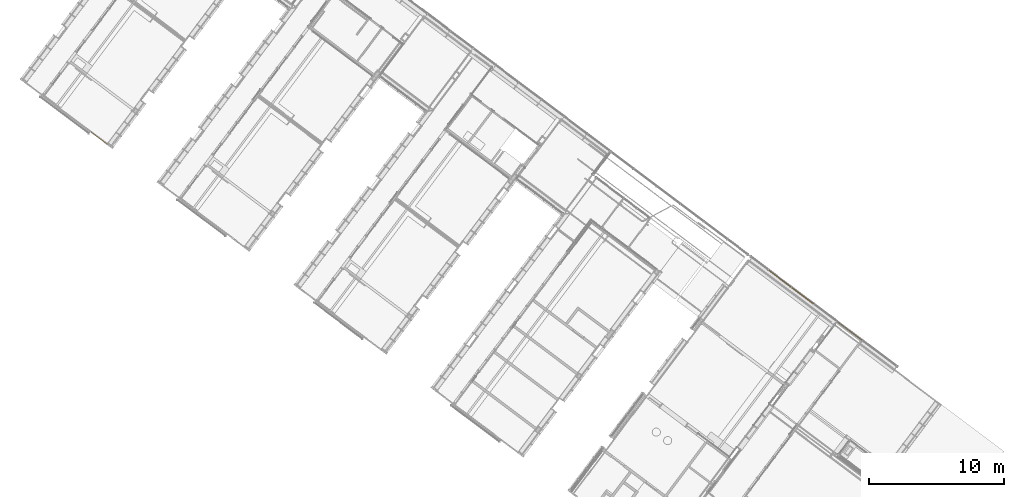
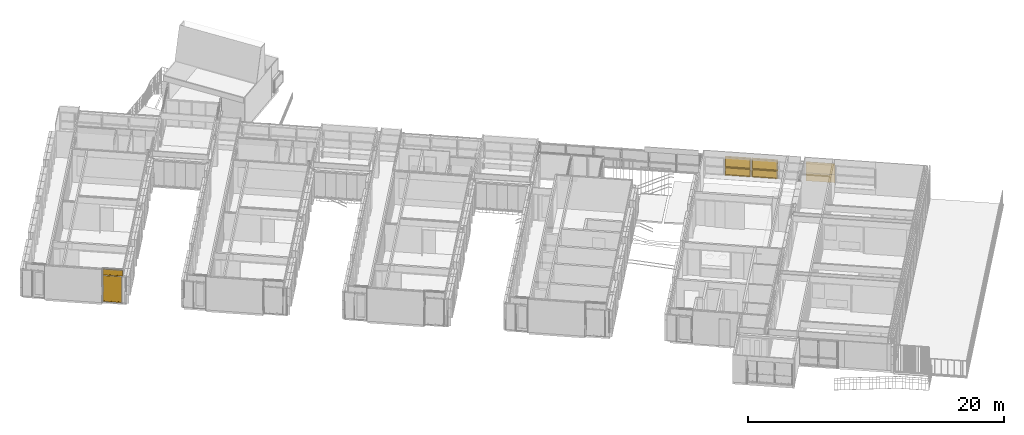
# One storey, part 172 of 243: 8 windows, 2 elements without a shape of their own.
"""IFC2X3 building model written with IfcOpenShell, lengths in metres."""

from ifc_helpers import new_model, entity, si_unit, converted_unit, derived_unit, direction, frame, origin, origin_2d_with_axis, place, context, subcontext, project, spatial, polyline, rectangle, outline, extrude, faceted_brep, source, transform, mapped, material, material_list, type_object, type_shapes, element, aggregate, save


model = new_model("IFC2X3")

# Units and contexts
model_context = context("Model", 3, precision=1e-05, world=origin(), true_north=direction((6.123031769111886e-17, 1.0)))
body_context = subcontext(model_context, "Body", "Model", "MODEL_VIEW")
ifc_project = project(units=[si_unit("LENGTHUNIT", "METRE"), si_unit("AREAUNIT", "SQUARE_METRE"), si_unit("VOLUMEUNIT", "CUBIC_METRE"), converted_unit("PLANEANGLEUNIT", "DEGREE", entity("IfcRatioMeasure", 0.017453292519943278), si_unit("PLANEANGLEUNIT", "RADIAN"), dimensions=[0, 0, 0, 0, 0, 0, 0]), si_unit("MASSUNIT", "GRAM", prefix="KILO"), derived_unit("MASSDENSITYUNIT", [(si_unit("MASSUNIT", "GRAM", prefix="KILO"), 1), (si_unit("LENGTHUNIT", "METRE"), -3)]), derived_unit("IONCONCENTRATIONUNIT", [(si_unit("MASSUNIT", "GRAM", prefix="KILO"), 1), (si_unit("LENGTHUNIT", "METRE"), -3)]), derived_unit("MOMENTOFINERTIAUNIT", [(si_unit("LENGTHUNIT", "METRE"), 4)]), si_unit("TIMEUNIT", "SECOND"), si_unit("FREQUENCYUNIT", "HERTZ"), si_unit("THERMODYNAMICTEMPERATUREUNIT", "DEGREE_CELSIUS"), derived_unit("THERMALTRANSMITTANCEUNIT", [(si_unit("MASSUNIT", "GRAM", prefix="KILO"), 1), (si_unit("THERMODYNAMICTEMPERATUREUNIT", "KELVIN"), -1), (si_unit("TIMEUNIT", "SECOND"), -3)]), derived_unit("THERMALCONDUCTANCEUNIT", [(si_unit("MASSUNIT", "GRAM", prefix="KILO"), 1), (si_unit("THERMODYNAMICTEMPERATUREUNIT", "KELVIN"), -1), (si_unit("TIMEUNIT", "SECOND"), -3), (si_unit("LENGTHUNIT", "METRE"), 1)]), derived_unit("VOLUMETRICFLOWRATEUNIT", [(si_unit("LENGTHUNIT", "METRE"), 3), (si_unit("TIMEUNIT", "SECOND"), -1)]), derived_unit("MASSFLOWRATEUNIT", [(si_unit("MASSUNIT", "GRAM", prefix="KILO"), 1), (si_unit("TIMEUNIT", "SECOND"), -1)]), derived_unit("ROTATIONALFREQUENCYUNIT", [(si_unit("TIMEUNIT", "SECOND"), -1)]), si_unit("ELECTRICCURRENTUNIT", "AMPERE"), si_unit("ELECTRICVOLTAGEUNIT", "VOLT"), si_unit("POWERUNIT", "WATT"), si_unit("FORCEUNIT", "NEWTON", prefix="KILO"), si_unit("ILLUMINANCEUNIT", "LUX"), si_unit("LUMINOUSFLUXUNIT", "LUMEN"), si_unit("LUMINOUSINTENSITYUNIT", "CANDELA"), derived_unit("USERDEFINED", [(si_unit("MASSUNIT", "GRAM", prefix="KILO"), -1), (si_unit("LENGTHUNIT", "METRE"), -2), (si_unit("TIMEUNIT", "SECOND"), 3), (si_unit("LUMINOUSFLUXUNIT", "LUMEN"), 1)]), derived_unit("USERDEFINED", [(si_unit("MASSUNIT", "GRAM", prefix="KILO"), 1), (si_unit("TIMEUNIT", "SECOND"), -3), (si_unit("LENGTHUNIT", "METRE"), 3), (si_unit("ELECTRICCURRENTUNIT", "AMPERE"), -2)]), derived_unit("SOUNDPOWERUNIT", [(si_unit("MASSUNIT", "GRAM", prefix="KILO"), 1), (si_unit("TIMEUNIT", "SECOND"), -3), (si_unit("LENGTHUNIT", "METRE"), 2)]), derived_unit("SOUNDPRESSUREUNIT", [(si_unit("MASSUNIT", "GRAM", prefix="KILO"), 1), (si_unit("LENGTHUNIT", "METRE"), -1), (si_unit("TIMEUNIT", "SECOND"), -2)]), derived_unit("LINEARVELOCITYUNIT", [(si_unit("LENGTHUNIT", "METRE"), 1), (si_unit("TIMEUNIT", "SECOND"), -1)]), si_unit("PRESSUREUNIT", "PASCAL"), derived_unit("USERDEFINED", [(si_unit("MASSUNIT", "GRAM", prefix="KILO"), 1), (si_unit("LENGTHUNIT", "METRE"), -2), (si_unit("TIMEUNIT", "SECOND"), -2)]), derived_unit("LINEARFORCEUNIT", [(si_unit("MASSUNIT", "GRAM", prefix="KILO"), 1), (si_unit("TIMEUNIT", "SECOND"), -2)]), derived_unit("PLANARFORCEUNIT", [(si_unit("MASSUNIT", "GRAM", prefix="KILO"), 1), (si_unit("LENGTHUNIT", "METRE"), -1), (si_unit("TIMEUNIT", "SECOND"), -2)]), derived_unit("SPECIFICHEATCAPACITYUNIT", [(si_unit("THERMODYNAMICTEMPERATUREUNIT", "KELVIN"), -1), (si_unit("LENGTHUNIT", "METRE"), 2), (si_unit("TIMEUNIT", "SECOND"), -2)]), derived_unit("HEATINGVALUEUNIT", [(si_unit("LENGTHUNIT", "METRE"), 2), (si_unit("TIMEUNIT", "SECOND"), -2)]), derived_unit("VAPORPERMEABILITYUNIT", [(si_unit("LENGTHUNIT", "METRE"), -1), (si_unit("TIMEUNIT", "SECOND"), 1)]), derived_unit("DYNAMICVISCOSITYUNIT", [(si_unit("MASSUNIT", "GRAM", prefix="KILO"), 1), (si_unit("TIMEUNIT", "SECOND"), -1), (si_unit("LENGTHUNIT", "METRE"), -1)]), derived_unit("THERMALEXPANSIONCOEFFICIENTUNIT", [(si_unit("THERMODYNAMICTEMPERATUREUNIT", "KELVIN"), -1)]), derived_unit("MODULUSOFELASTICITYUNIT", [(si_unit("MASSUNIT", "GRAM", prefix="KILO"), 1), (si_unit("LENGTHUNIT", "METRE"), -1), (si_unit("TIMEUNIT", "SECOND"), -2)]), derived_unit("ISOTHERMALMOISTURECAPACITYUNIT", [(si_unit("LENGTHUNIT", "METRE"), 3), (si_unit("MASSUNIT", "GRAM", prefix="KILO"), -1)]), derived_unit("MOISTUREDIFFUSIVITYUNIT", [(si_unit("TIMEUNIT", "SECOND"), -1), (si_unit("LENGTHUNIT", "METRE"), 2)])], contexts=[model_context])

# Site, building, storey
site_placement = place(None, frame((0.0, 0.0, 235.0), z_axis=(0.0, 0.0, 1.0), x_axis=(-0.7996477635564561, 0.6004693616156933, 0.0)))
site = spatial("IfcSite", under=ifc_project, at=site_placement, Name="Default", CompositionType="ELEMENT")
building_placement = place(site_placement, origin())
building = spatial("IfcBuilding", under=site, at=building_placement, CompositionType="ELEMENT")
storey_placement = place(building_placement, origin())
storey = spatial("IfcBuildingStorey", under=building, at=storey_placement, Name="P0- Escola", CompositionType="ELEMENT", Elevation=0.0)

# Curtain wall, windows
curtain_wall_type_1 = type_object("IfcCurtainWallType", Name="Muro cortina:MC- EXT- AL1- Fa porxo", PredefinedType="NOTDEFINED")
curtain_wall_1_placement = place(storey_placement, origin())
curtain_wall_1 = element("IfcCurtainWall", 1, at=curtain_wall_1_placement, inside=storey, type_object=curtain_wall_type_1, Name="Muro cortina:MC- EXT- AL1- Fa porxo", ObjectType="Muro cortina:MC- EXT- AL1- Fa porxo")
ifc_material_1 = material(Name="_Vidre")
ifc_material_2 = material(Name="_Alumini- T1- Perfil")
ifc_material_list_1 = material_list([ifc_material_1, ifc_material_2])
window_style_1 = type_object("IfcWindowStyle", Name="MC- Alu- Conjunt vidre fix- 62x60 cm:MC- Alu- Conjunt vidre fix- 62x60 cm", ConstructionType="NOTDEFINED", OperationType="NOTDEFINED", ParameterTakesPrecedence=False, Sizeable=False, material=ifc_material_list_1)
shared_shape_1 = source(origin(), body_context, "Body", "Brep", [
    faceted_brep([(-0.698191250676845, -0.007600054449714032, 0.048806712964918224), (0.6981912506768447, -0.007600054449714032, 0.048806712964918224), (0.6981912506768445, -0.03160022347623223, 0.048806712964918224), (-0.6981912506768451, -0.03160022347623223, 0.048806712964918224), (-0.6981912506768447, -0.007600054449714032, 2.4222499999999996), (0.6981912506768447, -0.007600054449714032, 2.4222499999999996), (0.6981912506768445, -0.03160022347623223, 2.4222499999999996), (-0.6981912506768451, -0.03160022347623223, 2.4222499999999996)], [[[0, 1, 2, 3]], [[4, 5, 1, 0]], [[5, 6, 2, 1]], [[6, 7, 3, 2]], [[7, 4, 0, 3]], [[4, 7, 6, 5]]]),
    faceted_brep([(-0.746997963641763, -0.05999999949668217, 2.4712499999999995), (-0.746997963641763, 0.0, 2.4712499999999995), (-0.746997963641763, 0.0, 0.0), (-0.746997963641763, -0.05999999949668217, 0.0), (-0.6841911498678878, 0.0, 2.4084431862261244), (-0.6841911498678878, 0.0, 0.06280681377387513), (0.6841911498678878, 0.0, 0.06280681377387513), (0.6841911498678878, 0.0, 2.4084431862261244), (0.746997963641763, 0.0, 2.4712499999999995), (0.746997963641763, 0.0, 0.0), (0.746997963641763, -0.05999999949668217, 0.0), (0.746997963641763, -0.05999999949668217, 2.4712499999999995), (0.684193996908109, -0.05999999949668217, 2.4084460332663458), (0.6841939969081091, -0.05999999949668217, 0.06280396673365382), (-0.684193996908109, -0.05999999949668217, 0.06280396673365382), (-0.6841939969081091, -0.05999999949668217, 2.4084460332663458), (-0.6841939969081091, -0.03160022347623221, 2.4084460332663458), (-0.6841939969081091, -0.03160022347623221, 0.06280396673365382), (0.6841939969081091, -0.03160022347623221, 0.06280396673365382), (0.6841939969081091, -0.03160022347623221, 2.4084460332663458), (0.6981912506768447, -0.03160022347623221, 2.4224432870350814), (0.6981912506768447, -0.03160022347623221, 0.048806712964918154), (-0.6981912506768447, -0.03160022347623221, 0.04880671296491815), (-0.6981912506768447, -0.03160022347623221, 2.4224432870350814), (-0.6981912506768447, -0.007600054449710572, 2.4224432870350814), (-0.6981912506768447, -0.007600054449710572, 0.04880671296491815), (0.6981912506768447, -0.007600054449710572, 0.048806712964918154), (0.6981912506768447, -0.007600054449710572, 2.4224432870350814), (0.6841911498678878, -0.007600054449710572, 2.4084431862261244), (0.6841911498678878, -0.007600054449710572, 0.06280681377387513), (-0.6841911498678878, -0.007600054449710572, 0.06280681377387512), (-0.6841911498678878, -0.007600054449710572, 2.4084431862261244)], [[[0, 1, 2, 3]], [[4, 5, 6, 7], [8, 9, 2, 1]], [[3, 2, 9, 10]], [[0, 3, 10, 11], [12, 13, 14, 15]], [[16, 15, 14, 17]], [[17, 14, 13, 18]], [[16, 17, 18, 19], [20, 21, 22, 23]], [[24, 23, 22, 25]], [[25, 22, 21, 26]], [[24, 25, 26, 27], [28, 29, 30, 31]], [[4, 31, 30, 5]], [[5, 30, 29, 6]], [[10, 9, 8, 11]], [[18, 13, 12, 19]], [[26, 21, 20, 27]], [[6, 29, 28, 7]], [[11, 8, 1, 0]], [[19, 12, 15, 16]], [[27, 20, 23, 24]], [[7, 28, 31, 4]]], outer=[[True], [False, True], [True], [True, False], [True], [True], [False, True], [True], [True], [True, False], [True], [True], [True], [True], [True], [True], [True], [True], [True], [True]]),
])
type_shapes(window_style_1, [shared_shape_1])
window_1_placement = place(curtain_wall_1_placement, frame((67.58714564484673, -20.288941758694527, 0.02099999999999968)))
window_1 = element("IfcWindow", 2, at=window_1_placement, type_object=window_style_1, material=ifc_material_list_1, Name="MC- Alu- Conjunt vidre fix- 62x60 cm:MC- Alu- Conjunt vidre fix- 62x60 cm", ObjectType="MC- Alu- Conjunt vidre fix- 62x60 cm:MC- Alu- Conjunt vidre fix- 62x60 cm", OverallHeight=2.4712499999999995, OverallWidth=1.493995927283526, context=body_context, shape_type="MappedRepresentation", body=[
    mapped(shared_shape_1, transform((0.0, 0.0, 0.0), scale=1.0)),
])
window_style_2 = type_object("IfcWindowStyle", Name="MC- Alu- Conjunt vidre fix- 62x60 cm:MC- Alu- Conjunt vidre fix- 62x60 cm", ConstructionType="NOTDEFINED", OperationType="NOTDEFINED", ParameterTakesPrecedence=False, Sizeable=False, material=ifc_material_list_1)
shared_shape_2 = source(origin(), body_context, "Body", "Brep", [
    faceted_brep([(-0.7221079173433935, -0.007600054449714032, 0.048806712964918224), (0.7221079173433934, -0.007600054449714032, 0.048806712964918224), (0.7221079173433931, -0.03160022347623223, 0.048806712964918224), (-0.7221079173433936, -0.03160022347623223, 0.048806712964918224), (-0.7221079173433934, -0.007600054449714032, 0.5147500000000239), (0.7221079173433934, -0.007600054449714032, 0.5147500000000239), (0.7221079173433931, -0.03160022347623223, 0.5147500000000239), (-0.7221079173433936, -0.03160022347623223, 0.5147500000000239)], [[[0, 1, 2, 3]], [[4, 5, 1, 0]], [[5, 6, 2, 1]], [[6, 7, 3, 2]], [[7, 4, 0, 3]], [[4, 7, 6, 5]]]),
    faceted_brep([(-0.7709146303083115, -0.05999999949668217, 0.563750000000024), (-0.7709146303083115, 0.0, 0.563750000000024), (-0.7709146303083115, 0.0, 0.0), (-0.7709146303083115, -0.05999999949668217, 0.0), (-0.7081078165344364, 0.0, 0.5009431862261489), (-0.7081078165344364, 0.0, 0.06280681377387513), (0.7081078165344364, 0.0, 0.06280681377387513), (0.7081078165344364, 0.0, 0.5009431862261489), (0.7709146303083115, 0.0, 0.563750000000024), (0.7709146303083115, 0.0, 0.0), (0.7709146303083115, -0.05999999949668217, 0.0), (0.7709146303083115, -0.05999999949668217, 0.563750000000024), (0.7081106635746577, -0.05999999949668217, 0.5009460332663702), (0.7081106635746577, -0.05999999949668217, 0.06280396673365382), (-0.7081106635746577, -0.05999999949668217, 0.06280396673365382), (-0.7081106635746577, -0.05999999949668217, 0.5009460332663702), (-0.7081106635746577, -0.03160022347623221, 0.5009460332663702), (-0.7081106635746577, -0.03160022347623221, 0.06280396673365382), (0.7081106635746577, -0.03160022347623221, 0.06280396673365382), (0.7081106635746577, -0.03160022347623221, 0.5009460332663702), (0.7221079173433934, -0.03160022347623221, 0.5149432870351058), (0.7221079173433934, -0.03160022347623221, 0.048806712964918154), (-0.7221079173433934, -0.03160022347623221, 0.04880671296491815), (-0.7221079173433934, -0.03160022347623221, 0.5149432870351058), (-0.7221079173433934, -0.007600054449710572, 0.5149432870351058), (-0.7221079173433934, -0.007600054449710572, 0.04880671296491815), (0.7221079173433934, -0.007600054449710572, 0.048806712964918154), (0.7221079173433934, -0.007600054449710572, 0.5149432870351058), (0.7081078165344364, -0.007600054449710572, 0.5009431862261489), (0.7081078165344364, -0.007600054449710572, 0.06280681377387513), (-0.7081078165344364, -0.007600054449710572, 0.06280681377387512), (-0.7081078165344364, -0.007600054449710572, 0.5009431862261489)], [[[0, 1, 2, 3]], [[4, 5, 6, 7], [8, 9, 2, 1]], [[3, 2, 9, 10]], [[0, 3, 10, 11], [12, 13, 14, 15]], [[16, 15, 14, 17]], [[17, 14, 13, 18]], [[16, 17, 18, 19], [20, 21, 22, 23]], [[24, 23, 22, 25]], [[25, 22, 21, 26]], [[24, 25, 26, 27], [28, 29, 30, 31]], [[4, 31, 30, 5]], [[5, 30, 29, 6]], [[10, 9, 8, 11]], [[18, 13, 12, 19]], [[26, 21, 20, 27]], [[6, 29, 28, 7]], [[11, 8, 1, 0]], [[19, 12, 15, 16]], [[27, 20, 23, 24]], [[7, 28, 31, 4]]], outer=[[True], [False, True], [True], [True, False], [True], [True], [False, True], [True], [True], [True, False], [True], [True], [True], [True], [True], [True], [True], [True], [True], [True]]),
])
type_shapes(window_style_2, [shared_shape_2])
window_2_placement = place(curtain_wall_1_placement, frame((67.56322897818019, -20.288941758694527, 2.54525)))
window_2 = element("IfcWindow", 3, at=window_2_placement, type_object=window_style_2, material=ifc_material_list_1, Name="MC- Alu- Conjunt vidre fix- 62x60 cm:MC- Alu- Conjunt vidre fix- 62x60 cm", ObjectType="MC- Alu- Conjunt vidre fix- 62x60 cm:MC- Alu- Conjunt vidre fix- 62x60 cm", OverallHeight=0.563750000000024, OverallWidth=1.541829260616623, context=body_context, shape_type="MappedRepresentation", body=[
    mapped(shared_shape_2, transform((0.0, 0.0, 0.0), scale=1.0)),
])
aggregate(curtain_wall_1, [window_1, window_2])

curtain_wall_type_2 = type_object("IfcCurtainWallType", Name="Muro cortina:MC- EXT- MC6", PredefinedType="NOTDEFINED")
curtain_wall_2_placement = place(storey_placement, origin())
curtain_wall_2 = element("IfcCurtainWall", 4, at=curtain_wall_2_placement, inside=storey, type_object=curtain_wall_type_2, Name="Muro cortina:MC- EXT- MC6", ObjectType="Muro cortina:MC- EXT- MC6")
window_style_3 = type_object("IfcWindowStyle", Name="MC- Alu- Conjunt vidre fix- 62x60 cm:MC- Alu- Conjunt vidre fix- 62x60 cm", ConstructionType="NOTDEFINED", OperationType="NOTDEFINED", ParameterTakesPrecedence=False, Sizeable=False, material=ifc_material_list_1)
shared_shape_3 = source(origin(), body_context, "Body", "Brep", [
    faceted_brep([(0.984693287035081, -0.007600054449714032, 0.048806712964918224), (0.9846932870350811, -0.03160022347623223, 0.048806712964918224), (-0.9846932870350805, -0.03160022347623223, 0.048806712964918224), (-0.9846932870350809, -0.007600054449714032, 0.048806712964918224), (0.984693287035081, -0.007600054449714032, 0.7210000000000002), (-0.9846932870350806, -0.007600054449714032, 0.7210000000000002), (-0.9846932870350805, -0.03160022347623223, 0.7210000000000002), (0.9846932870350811, -0.03160022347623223, 0.7210000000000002)], [[[0, 1, 2, 3]], [[4, 0, 3, 5]], [[5, 3, 2, 6]], [[6, 2, 1, 7]], [[7, 1, 0, 4]], [[4, 5, 6, 7]]]),
    faceted_brep([(1.033499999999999, -0.05999999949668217, 0.7700000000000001), (1.033499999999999, -0.05999999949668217, 0.0), (1.033499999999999, 0.0, 0.0), (1.033499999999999, 0.0, 0.7699999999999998), (-1.033499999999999, 0.0, 0.7700000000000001), (-1.033499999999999, 0.0, 0.0), (0.9706931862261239, 0.0, 0.7071931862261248), (-0.9706931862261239, 0.0, 0.707193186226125), (-0.9706931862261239, 0.0, 0.0628068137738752), (0.9706931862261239, 0.0, 0.06280681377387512), (-1.033499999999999, -0.05999999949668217, 0.0), (-1.033499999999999, -0.05999999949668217, 0.7700000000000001), (-0.9706960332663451, -0.05999999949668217, 0.7071960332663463), (0.9706960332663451, -0.05999999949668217, 0.7071960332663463), (0.9706960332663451, -0.05999999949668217, 0.06280396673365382), (-0.9706960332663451, -0.05999999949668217, 0.06280396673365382), (0.9706960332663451, -0.03160022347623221, 0.7071960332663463), (0.9706960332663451, -0.03160022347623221, 0.06280396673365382), (-0.9706960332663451, -0.03160022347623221, 0.06280396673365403), (-0.9706960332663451, -0.03160022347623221, 0.7071960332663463), (-0.9846932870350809, -0.03160022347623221, 0.721193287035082), (0.9846932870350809, -0.03160022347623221, 0.721193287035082), (0.9846932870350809, -0.03160022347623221, 0.048806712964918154), (-0.9846932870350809, -0.03160022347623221, 0.04880671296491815), (0.9846932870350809, -0.007600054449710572, 0.721193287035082), (0.9846932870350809, -0.007600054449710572, 0.04880671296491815), (-0.9846932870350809, -0.007600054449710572, 0.048806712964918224), (-0.9846932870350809, -0.007600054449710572, 0.721193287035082), (-0.9706931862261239, -0.007600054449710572, 0.707193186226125), (0.9706931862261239, -0.007600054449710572, 0.707193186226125), (0.9706931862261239, -0.007600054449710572, 0.06280681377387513), (-0.9706931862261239, -0.007600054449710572, 0.06280681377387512)], [[[0, 1, 2, 3]], [[4, 3, 2, 5], [6, 7, 8, 9]], [[1, 10, 5, 2]], [[0, 11, 10, 1], [12, 13, 14, 15]], [[16, 17, 14, 13]], [[17, 18, 15, 14]], [[16, 19, 18, 17], [20, 21, 22, 23]], [[24, 25, 22, 21]], [[25, 26, 23, 22]], [[24, 27, 26, 25], [28, 29, 30, 31]], [[6, 9, 30, 29]], [[9, 8, 31, 30]], [[10, 11, 4, 5]], [[18, 19, 12, 15]], [[26, 27, 20, 23]], [[8, 7, 28, 31]], [[11, 0, 3, 4]], [[19, 16, 13, 12]], [[27, 24, 21, 20]], [[7, 6, 29, 28]]], outer=[[True], [True, False], [True], [True, False], [True], [True], [False, True], [True], [True], [True, False], [True], [True], [True], [True], [True], [True], [True], [True], [True], [True]]),
])
type_shapes(window_style_3, [shared_shape_3])
window_3_placement = place(curtain_wall_2_placement, frame((18.82964768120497, -42.34019175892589, 0.685), z_axis=(0.0, 0.0, 1.0), x_axis=(-1.0, 0.0, 0.0)))
window_3 = element("IfcWindow", 5, at=window_3_placement, type_object=window_style_3, material=ifc_material_list_1, Name="MC- Alu- Conjunt vidre fix- 62x60 cm:MC- Alu- Conjunt vidre fix- 62x60 cm", ObjectType="MC- Alu- Conjunt vidre fix- 62x60 cm:MC- Alu- Conjunt vidre fix- 62x60 cm", OverallHeight=0.7700000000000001, OverallWidth=2.066999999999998, context=body_context, shape_type="MappedRepresentation", body=[
    mapped(shared_shape_3, transform((0.0, 0.0, 0.0), scale=1.0)),
])
window_4_placement = place(curtain_wall_2_placement, frame((20.946647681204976, -42.3401917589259, 0.685), z_axis=(0.0, 0.0, 1.0), x_axis=(-1.0, 0.0, 0.0)))
window_4 = element("IfcWindow", 6, at=window_4_placement, type_object=window_style_3, material=ifc_material_list_1, Name="MC- Alu- Conjunt vidre fix- 62x60 cm:MC- Alu- Conjunt vidre fix- 62x60 cm", ObjectType="MC- Alu- Conjunt vidre fix- 62x60 cm:MC- Alu- Conjunt vidre fix- 62x60 cm", OverallHeight=0.7700000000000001, OverallWidth=2.066999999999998, context=body_context, shape_type="MappedRepresentation", body=[
    mapped(shared_shape_3, transform((0.0, 0.0, 0.0), scale=1.0)),
])
window_style_4 = type_object("IfcWindowStyle", Name="MC- Alu- Conjunt finestra basculant- 68x68 cm:MC- Alu- Conjunt finestra basculant- 68x68 cm", ConstructionType="NOTDEFINED", OperationType="NOTDEFINED", ParameterTakesPrecedence=False, Sizeable=False, material=ifc_material_list_1)
shared_shape_4 = source(origin(), body_context, "Body", "Brep", [
    faceted_brep([(0.9814117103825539, -0.035598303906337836, 0.051999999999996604), (-0.9814117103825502, -0.035598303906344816, 0.051999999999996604), (-0.9814117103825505, -0.011598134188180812, 0.051999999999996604), (0.9814117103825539, -0.011598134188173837, 0.051999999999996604), (0.9814117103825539, -0.035598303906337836, 0.9953027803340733), (0.9814117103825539, -0.011598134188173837, 0.9953027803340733), (-0.9814117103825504, -0.011598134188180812, 0.9953027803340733), (-0.9814117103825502, -0.035598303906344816, 0.9953027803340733)], [[[0, 1, 2, 3]], [[4, 0, 3, 5]], [[5, 3, 2, 6]], [[6, 2, 1, 7]], [[7, 1, 0, 4]], [[4, 5, 6, 7]]]),
    faceted_brep([(-0.9657108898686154, -0.009998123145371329, 0.9796019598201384), (-0.9657108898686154, -0.00999812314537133, 0.06789804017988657), (-0.9657108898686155, -0.007998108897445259, 0.06789804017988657), (-0.9657108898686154, -0.007998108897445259, 0.9796019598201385), (-0.994608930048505, -0.007998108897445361, 1.0085000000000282), (0.9946089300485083, -0.007998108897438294, 1.0085000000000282), (0.9946089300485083, -0.007998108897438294, 0.03899999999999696), (-0.994608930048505, -0.007998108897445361, 0.03899999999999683), (0.9657108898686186, -0.007998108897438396, 0.9796019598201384), (0.9657108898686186, -0.007998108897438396, 0.06789804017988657), (0.9657108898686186, -0.009998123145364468, 0.06789804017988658), (0.9657108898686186, -0.009998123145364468, 0.9796019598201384), (0.9814117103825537, -0.00999812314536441, 0.9953027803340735), (-0.9814117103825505, -0.009998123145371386, 0.9953027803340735), (-0.9814117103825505, -0.009998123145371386, 0.05219721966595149), (0.9814117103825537, -0.00999812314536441, 0.052197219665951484), (-0.9814117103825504, -0.040799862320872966, 0.9953027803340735), (-0.9814117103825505, -0.040799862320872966, 0.052197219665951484), (0.9814117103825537, -0.040799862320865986, 0.052197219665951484), (0.9814117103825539, -0.04079986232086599, 0.9953027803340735), (0.9657108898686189, -0.04079986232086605, 0.9796019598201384), (-0.9657108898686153, -0.04079986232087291, 0.9796019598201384), (-0.9657108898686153, -0.04079986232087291, 0.06789804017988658), (0.9657108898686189, -0.04079986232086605, 0.06789804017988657), (-0.9657108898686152, -0.06800005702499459, 0.9796019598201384), (-0.9657108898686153, -0.06800005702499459, 0.06789804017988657), (0.9657108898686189, -0.06800005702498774, 0.06789804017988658), (0.965710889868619, -0.06800005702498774, 0.9796019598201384), (1.0121128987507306, -0.06800005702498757, 1.0260039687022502), (-1.0121128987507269, -0.06800005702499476, 1.0260039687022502), (-1.0121128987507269, -0.06800005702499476, 0.021496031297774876), (1.0121128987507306, -0.06800005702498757, 0.02149603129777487), (-1.012112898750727, -0.06450003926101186, 1.0260039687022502), (-1.012112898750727, -0.06450003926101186, 0.02149603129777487), (1.0121128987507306, -0.06450003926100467, 0.021496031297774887), (1.0121128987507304, -0.06450003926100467, 1.0260039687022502), (0.9946089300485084, -0.06450003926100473, 1.0085000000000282), (-0.9946089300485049, -0.06450003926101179, 1.0085000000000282), (-0.9946089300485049, -0.06450003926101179, 0.03899999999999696), (0.9946089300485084, -0.06450003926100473, 0.038999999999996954)], [[[0, 1, 2, 3]], [[4, 5, 6, 7], [8, 3, 2, 9]], [[1, 10, 9, 2]], [[0, 11, 10, 1], [12, 13, 14, 15]], [[16, 17, 14, 13]], [[17, 18, 15, 14]], [[16, 19, 18, 17], [20, 21, 22, 23]], [[24, 25, 22, 21]], [[25, 26, 23, 22]], [[24, 27, 26, 25], [28, 29, 30, 31]], [[32, 33, 30, 29]], [[33, 34, 31, 30]], [[32, 35, 34, 33], [36, 37, 38, 39]], [[4, 7, 38, 37]], [[7, 6, 39, 38]], [[10, 11, 8, 9]], [[18, 19, 12, 15]], [[26, 27, 20, 23]], [[34, 35, 28, 31]], [[6, 5, 36, 39]], [[11, 0, 3, 8]], [[19, 16, 13, 12]], [[27, 24, 21, 20]], [[35, 32, 29, 28]], [[5, 4, 37, 36]]], outer=[[True], [True, False], [True], [False, True], [True], [True], [True, False], [True], [True], [False, True], [True], [True], [True, False], [True], [True], [True], [True], [True], [True], [True], [True], [True], [True], [True], [True]]),
    faceted_brep([(0.9706931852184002, 0.0, 0.9846931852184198), (0.9706931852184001, 0.0, 0.06280681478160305), (0.9706931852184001, -0.0040000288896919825, 0.06280681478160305), (0.9706931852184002, -0.0040000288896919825, 0.9846931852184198), (-0.9706931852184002, -0.0040000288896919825, 0.9846931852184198), (-0.9706931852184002, -0.0040000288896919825, 0.06280681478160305), (1.0060998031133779, -0.0040000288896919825, 1.0200998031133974), (-1.006099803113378, -0.0040000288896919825, 1.0200998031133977), (-1.0060998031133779, -0.0040000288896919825, 0.02740019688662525), (1.006099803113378, -0.0040000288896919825, 0.02740019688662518), (-0.9706931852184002, 0.0, 0.062806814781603), (-0.9706931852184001, 0.0, 0.9846931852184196), (-1.0335000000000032, 0.0, 1.0475000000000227), (1.0335000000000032, 0.0, 1.0475000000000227), (1.0335000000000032, 0.0, 0.0), (-1.0335000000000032, 0.0, 0.0), (1.0335000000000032, -0.05999999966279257, 1.0475000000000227), (1.033500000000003, -0.05999999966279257, 0.0), (-1.0335000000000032, -0.05999999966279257, 0.0), (-1.033500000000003, -0.05999999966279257, 1.0475000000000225), (-1.006099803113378, -0.05999999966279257, 1.0200998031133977), (1.006099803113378, -0.05999999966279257, 1.0200998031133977), (1.006099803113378, -0.05999999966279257, 0.027400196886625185), (-1.006099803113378, -0.05999999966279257, 0.02740019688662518)], [[[0, 1, 2, 3]], [[4, 3, 2, 5], [6, 7, 8, 9]], [[1, 10, 5, 2]], [[0, 11, 10, 1], [12, 13, 14, 15]], [[16, 17, 14, 13]], [[17, 18, 15, 14]], [[16, 19, 18, 17], [20, 21, 22, 23]], [[6, 9, 22, 21]], [[9, 8, 23, 22]], [[10, 11, 4, 5]], [[18, 19, 12, 15]], [[8, 7, 20, 23]], [[11, 0, 3, 4]], [[19, 16, 13, 12]], [[7, 6, 21, 20]]], outer=[[True], [False, True], [True], [False, True], [True], [True], [True, False], [True], [True], [True], [True], [True], [True], [True], [True]]),
])
type_shapes(window_style_4, [shared_shape_4])
window_5_placement = place(curtain_wall_2_placement, frame((18.82964768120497, -42.34019175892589, 1.455), z_axis=(0.0, 0.0, 1.0), x_axis=(-1.0, 0.0, 0.0)))
window_5 = element("IfcWindow", 7, at=window_5_placement, type_object=window_style_4, material=ifc_material_list_1, Name="MC- Alu- Conjunt finestra basculant- 68x68 cm:MC- Alu- Conjunt finestra basculant- 68x68 cm", ObjectType="MC- Alu- Conjunt finestra basculant- 68x68 cm:MC- Alu- Conjunt finestra basculant- 68x68 cm", OverallHeight=1.0475000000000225, OverallWidth=2.0670000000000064, context=body_context, shape_type="MappedRepresentation", body=[
    mapped(shared_shape_4, transform((0.0, 0.0, 0.0), scale=1.0)),
])
window_6_placement = place(curtain_wall_2_placement, frame((20.946647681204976, -42.3401917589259, 1.455), z_axis=(0.0, 0.0, 1.0), x_axis=(-1.0, 0.0, 0.0)))
window_6 = element("IfcWindow", 8, at=window_6_placement, type_object=window_style_4, material=ifc_material_list_1, Name="MC- Alu- Conjunt finestra basculant- 68x68 cm:MC- Alu- Conjunt finestra basculant- 68x68 cm", ObjectType="MC- Alu- Conjunt finestra basculant- 68x68 cm:MC- Alu- Conjunt finestra basculant- 68x68 cm", OverallHeight=1.0475000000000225, OverallWidth=2.0670000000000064, context=body_context, shape_type="MappedRepresentation", body=[
    mapped(shared_shape_4, transform((0.0, 0.0, 0.0), scale=1.0)),
])
ifc_material_3 = material(Name="<Unnamed>")
ifc_material_list_2 = material_list([ifc_material_3, ifc_material_1, ifc_material_2])
window_style_5 = type_object("IfcWindowStyle", Name="MC- Alu- Conjunt vidre fix revestiment:MC- Alu- Conjunt vidre fix revestiment", ConstructionType="NOTDEFINED", OperationType="NOTDEFINED", ParameterTakesPrecedence=False, Sizeable=False, material=ifc_material_list_2)
shared_shape_5 = source(origin(), body_context, "Body", "SweptSolid", [
    extrude(rectangle(XDim=2.2803626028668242, YDim=0.039999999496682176, at=origin_2d_with_axis()), frame((0.0, -0.02999999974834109, 0.0050000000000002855), z_axis=(0.0, 0.0, 1.0), x_axis=(-1.0, 0.0, 0.0)), (0.0, 0.0, 1.0), 0.7599999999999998),
    extrude(rectangle(XDim=2.2903626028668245, YDim=0.010000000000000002, at=origin_2d_with_axis()), frame((0.0, -0.005000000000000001, 0.0), z_axis=(0.0, 0.0, 1.0), x_axis=(-1.0, 0.0, 0.0)), (0.0, 0.0, 1.0), 0.7700000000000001),
    extrude(outline(polyline([(-0.38500000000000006, -1.1451813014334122), (0.38500000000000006, -1.1451813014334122), (0.38500000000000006, 1.1451813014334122), (-0.38500000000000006, 1.1451813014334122), (-0.38500000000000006, -1.1451813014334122)]), holes=[polyline([(-0.3800000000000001, 1.1401813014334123), (0.3800000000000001, 1.1401813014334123), (0.38000000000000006, -1.1401813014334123), (-0.3800000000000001, -1.1401813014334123), (-0.3800000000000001, 1.1401813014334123)])]), frame((0.0, -0.010000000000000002, 0.38500000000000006), z_axis=(0.0, -1.0, 0.0), x_axis=(0.0, 0.0, -1.0)), (0.0, 0.0, 1.0), 0.039999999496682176),
])
type_shapes(window_style_5, [shared_shape_5])
window_7_placement = place(curtain_wall_2_placement, frame((14.441610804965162, -42.34019175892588, 0.685), z_axis=(0.0, 0.0, 1.0), x_axis=(-1.0, 0.0, 0.0)))
window_7 = element("IfcWindow", 9, at=window_7_placement, type_object=window_style_5, material=ifc_material_list_2, Name="MC- Alu- Conjunt vidre fix revestiment:MC- Alu- Conjunt vidre fix revestiment", ObjectType="MC- Alu- Conjunt vidre fix revestiment:MC- Alu- Conjunt vidre fix revestiment", OverallHeight=0.7700000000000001, OverallWidth=2.2903626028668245, context=body_context, shape_type="MappedRepresentation", body=[
    mapped(shared_shape_5, transform((0.0, 0.0, 0.0), scale=1.0)),
])
window_style_6 = type_object("IfcWindowStyle", Name="MC- Alu- Conjunt vidre fix revestiment:MC- Alu- Conjunt vidre fix revestiment", ConstructionType="NOTDEFINED", OperationType="NOTDEFINED", ParameterTakesPrecedence=False, Sizeable=False, material=ifc_material_list_2)
shared_shape_6 = source(origin(), body_context, "Body", "SweptSolid", [
    extrude(rectangle(XDim=2.2803626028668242, YDim=0.039999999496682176, at=origin_2d_with_axis()), frame((0.0, -0.02999999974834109, 0.0050000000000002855), z_axis=(0.0, 0.0, 1.0), x_axis=(-1.0, 0.0, 0.0)), (0.0, 0.0, 1.0), 1.0375000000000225),
    extrude(rectangle(XDim=2.2903626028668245, YDim=0.010000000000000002, at=origin_2d_with_axis()), frame((0.0, -0.005000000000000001, 0.0), z_axis=(0.0, 0.0, 1.0), x_axis=(-1.0, 0.0, 0.0)), (0.0, 0.0, 1.0), 1.0475000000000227),
    extrude(outline(polyline([(-0.5237500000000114, -1.1451813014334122), (0.5237500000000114, -1.1451813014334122), (0.5237500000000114, 1.1451813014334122), (-0.5237500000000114, 1.1451813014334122), (-0.5237500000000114, -1.1451813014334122)]), holes=[polyline([(-0.5187500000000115, 1.1401813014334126), (0.5187500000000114, 1.1401813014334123), (0.5187500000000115, -1.1401813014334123), (-0.5187500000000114, -1.1401813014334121), (-0.5187500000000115, 1.1401813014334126)])]), frame((0.0, -0.010000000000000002, 0.5237500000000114), z_axis=(0.0, -1.0, 0.0), x_axis=(0.0, 0.0, -1.0)), (0.0, 0.0, 1.0), 0.039999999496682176),
])
type_shapes(window_style_6, [shared_shape_6])
window_8_placement = place(curtain_wall_2_placement, frame((14.441610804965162, -42.34019175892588, 1.455), z_axis=(0.0, 0.0, 1.0), x_axis=(-1.0, 0.0, 0.0)))
window_8 = element("IfcWindow", 10, at=window_8_placement, type_object=window_style_6, material=ifc_material_list_2, Name="MC- Alu- Conjunt vidre fix revestiment:MC- Alu- Conjunt vidre fix revestiment", ObjectType="MC- Alu- Conjunt vidre fix revestiment:MC- Alu- Conjunt vidre fix revestiment", OverallHeight=1.0475000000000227, OverallWidth=2.2903626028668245, context=body_context, shape_type="MappedRepresentation", body=[
    mapped(shared_shape_6, transform((0.0, 0.0, 0.0), scale=1.0)),
])
aggregate(curtain_wall_2, [window_7, window_3, window_4, window_8, window_5, window_6])

save(model, "model.ifc")
